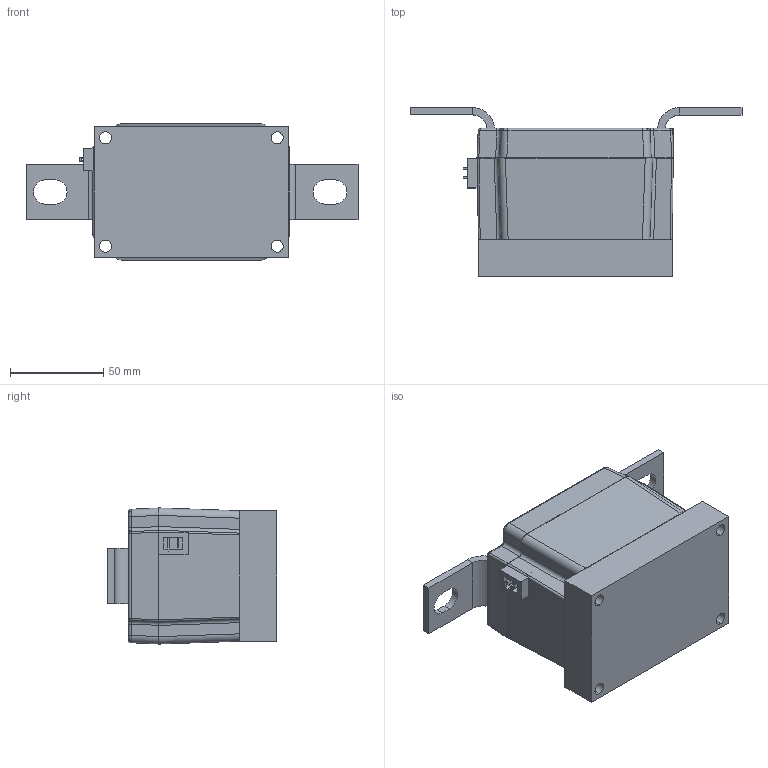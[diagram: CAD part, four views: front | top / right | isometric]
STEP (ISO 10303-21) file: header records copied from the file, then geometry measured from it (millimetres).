
FILE_DESCRIPTION (( 'STEP AP214' ), '1' );
FILE_NAME ('MTD6-T.STEP', '2021-02-08T06:31:45', ( '' ), ( '' ), 'SwSTEP 2.0', 'SolidWorks 2018', '' );
FILE_SCHEMA (( 'AUTOMOTIVE_DESIGN' ));
Length unit declared in the file: millimetre
Products named in the file (1): MTD6-T
Bounding box: 177.96 x 90.62 x 73 mm (x, y, z)
Volume: 253741.7 mm3; surface area: 103068.5 mm2
Topology: 8 solids, 8 shells, 437 faces, 1184 edges, 765 vertices
Faces by surface type: plane 300, cylinder 95, bspline 36, cone 6
Entity records: 19566 total; most frequent: CARTESIAN_POINT 4175, ORIENTED_EDGE 2360, DIRECTION 1908, EDGE_CURVE 1180, LINE 880, VECTOR 880, VERTEX_POINT 765, AXIS2_PLACEMENT_3D 514
